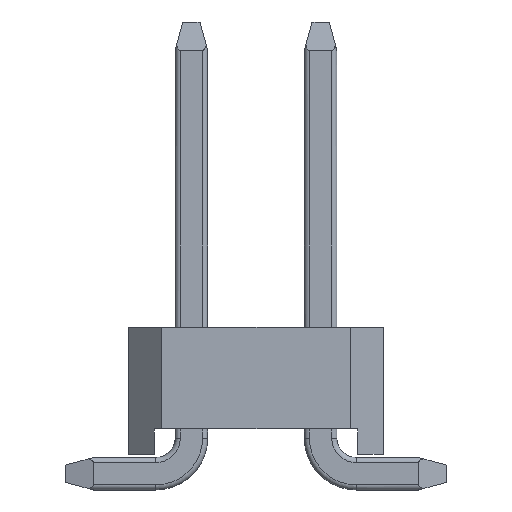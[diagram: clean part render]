
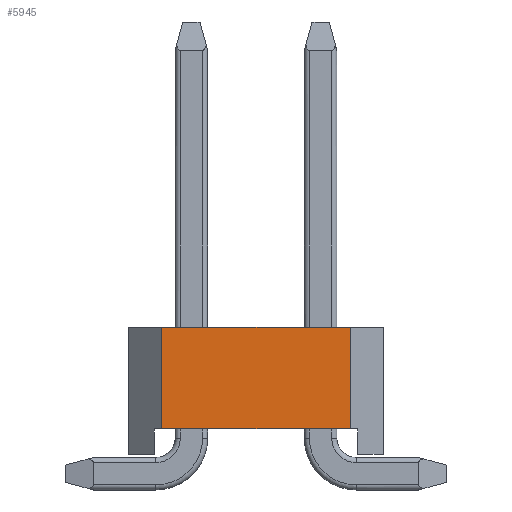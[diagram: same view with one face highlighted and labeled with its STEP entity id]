
A CAD part, left-side view. The second image highlights one B-rep face of the part: STEP entity #5945.
In plain terms, the highlighted planar face has unit normal (-1, 0, 0).
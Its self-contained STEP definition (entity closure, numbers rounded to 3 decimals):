
#227 = CARTESIAN_POINT ( 'NONE',  ( -3.81, 1.85, 3.2 ) ) ;
#450 = DIRECTION ( 'NONE',  ( 0., 0., -1. ) ) ;
#477 = LINE ( 'NONE', #3919, #20630 ) ;
#1436 = ORIENTED_EDGE ( 'NONE', *, *, #6161, .F. ) ;
#2077 = CARTESIAN_POINT ( 'NONE',  ( -3.81, 2.5, 3.2 ) ) ;
#2297 = VECTOR ( 'NONE', #20870, 1000. ) ;
#2381 = DIRECTION ( 'NONE',  ( 0., -1., 0. ) ) ;
#2865 = VERTEX_POINT ( 'NONE', #5324 ) ;
#3919 = CARTESIAN_POINT ( 'NONE',  ( -3.81, -2., 1.2 ) ) ;
#3966 = EDGE_CURVE ( 'NONE', #21650, #11986, #18168, .T. ) ;
#4679 = ORIENTED_EDGE ( 'NONE', *, *, #20400, .T. ) ;
#4695 = DIRECTION ( 'NONE',  ( 0., -1., 0. ) ) ;
#4951 = EDGE_LOOP ( 'NONE', ( #10459, #21068, #4679, #1436 ) ) ;
#5324 = CARTESIAN_POINT ( 'NONE',  ( -3.81, -1.85, 3.2 ) ) ;
#5521 = CARTESIAN_POINT ( 'NONE',  ( -3.81, 1.85, 1.2 ) ) ;
#5945 = ADVANCED_FACE ( 'NONE', ( #15956 ), #20019, .F. ) ;
#6161 = EDGE_CURVE ( 'NONE', #21650, #2865, #13540, .T. ) ;
#6487 = AXIS2_PLACEMENT_3D ( 'NONE', #2077, #18022, #14133 ) ;
#10311 = CARTESIAN_POINT ( 'NONE',  ( -3.81, 1.85, 3.2 ) ) ;
#10459 = ORIENTED_EDGE ( 'NONE', *, *, #3966, .T. ) ;
#11795 = CARTESIAN_POINT ( 'NONE',  ( -3.81, 2.5, 3.2 ) ) ;
#11986 = VERTEX_POINT ( 'NONE', #5521 ) ;
#13540 = LINE ( 'NONE', #11795, #22612 ) ;
#14133 = DIRECTION ( 'NONE',  ( 0., 1., 0. ) ) ;
#14526 = VERTEX_POINT ( 'NONE', #20083 ) ;
#15577 = LINE ( 'NONE', #22506, #2297 ) ;
#15956 = FACE_OUTER_BOUND ( 'NONE', #4951, .T. ) ;
#18022 = DIRECTION ( 'NONE',  ( 1., 0., 0. ) ) ;
#18168 = LINE ( 'NONE', #227, #23045 ) ;
#18369 = EDGE_CURVE ( 'NONE', #11986, #14526, #477, .T. ) ;
#20019 = PLANE ( 'NONE',  #6487 ) ;
#20083 = CARTESIAN_POINT ( 'NONE',  ( -3.81, -1.85, 1.2 ) ) ;
#20400 = EDGE_CURVE ( 'NONE', #14526, #2865, #15577, .T. ) ;
#20630 = VECTOR ( 'NONE', #2381, 1000. ) ;
#20870 = DIRECTION ( 'NONE',  ( 0., 0., 1. ) ) ;
#21068 = ORIENTED_EDGE ( 'NONE', *, *, #18369, .T. ) ;
#21650 = VERTEX_POINT ( 'NONE', #10311 ) ;
#22506 = CARTESIAN_POINT ( 'NONE',  ( -3.81, -1.85, 3.2 ) ) ;
#22612 = VECTOR ( 'NONE', #4695, 1000. ) ;
#23045 = VECTOR ( 'NONE', #450, 1000. ) ;
